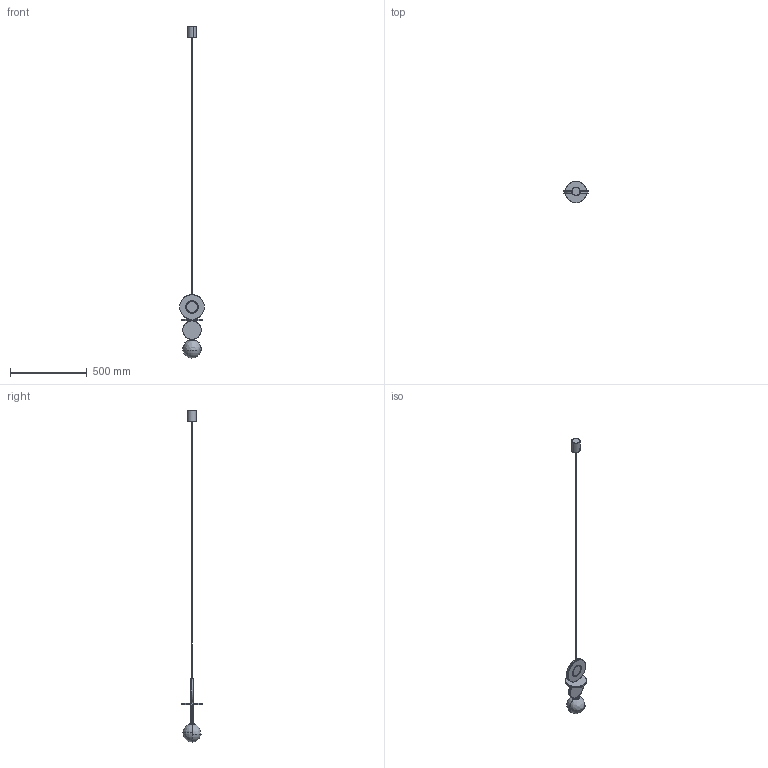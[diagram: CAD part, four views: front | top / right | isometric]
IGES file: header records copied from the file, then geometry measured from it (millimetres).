
Start section: SolidWorks IGES file using analytic representation for surfaces
Global section: file name: Z:\PRODUKT\DESIGN\DROPS WOOD\DROPS WOOD PM\A\model 3d\DROPS WOOD A pm.IGS; native system: SolidWorks 2023; preprocessor: SolidWorks 2023; author: anna.bielnik; date: 231127.091606; units: millimetre
Bounding box: 160 x 140.01 x 2165.57 mm (x, y, z)
Surface area: 358929.5 mm2 (no closed solid volume)
Topology: 0 solids, 0 shells, 165 faces, 3388 edges, 3385 vertices
Faces by surface type: revolution 116, bspline 49
